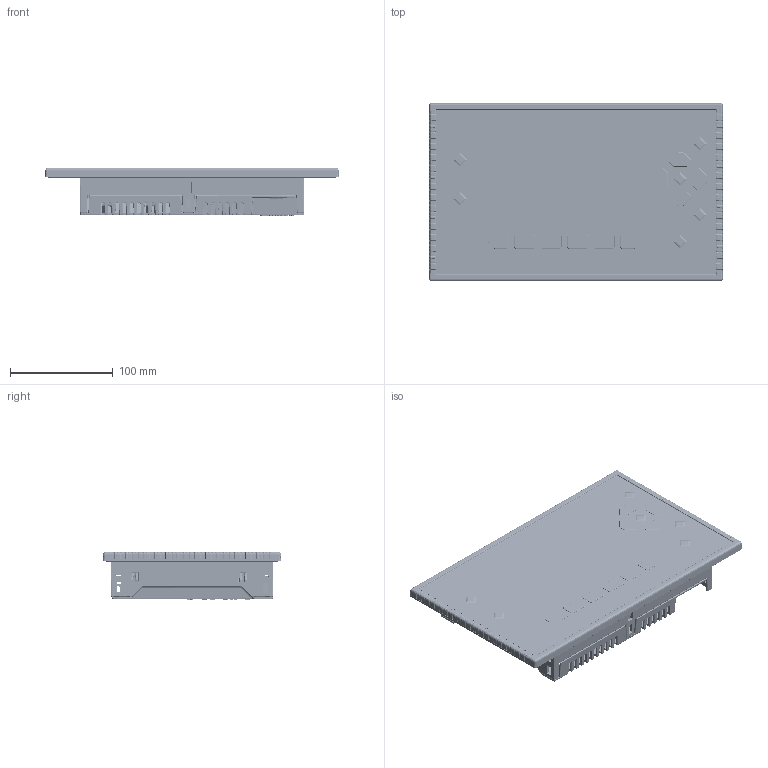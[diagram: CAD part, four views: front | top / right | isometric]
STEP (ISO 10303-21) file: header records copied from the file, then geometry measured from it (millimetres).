
FILE_DESCRIPTION(/* description */ (''),/* implementation_level */ '2;1');
FILE_NAME(/* name */ 'DU250_20240215.stp',/* time_stamp */ '2024-02-15T13:46:15+01:00',/* author */ ('rsj'),/* organization */ (''),/* preprocessor_version */ 'ST-DEVELOPER v19.2',/* originating_system */ 'Autodesk Inventor 2023',/* authorisation */ '');
FILE_SCHEMA (('AUTOMOTIVE_DESIGN { 1 0 10303 214 3 1 1 }'));
Products named in the file (1): DU 250_Simplify_2
Bounding box: 285.58 x 173.36 x 46.51 mm (x, y, z)
Topology: 2 solids, 5 shells, 12745 faces, 31954 edges, 19056 vertices
Faces by surface type: cylinder 4480, plane 3875, bspline 2566, torus 1704, sphere 65, cone 55
Full cylindrical faces by diameter (mm): 0.399 x2
Entity records: 441609 total; most frequent: CARTESIAN_POINT 145162, ORIENTED_EDGE 63678, DIRECTION 61248, EDGE_CURVE 31839, AXIS2_PLACEMENT_3D 22720, VERTEX_POINT 19056, LINE 15808, VECTOR 15808
